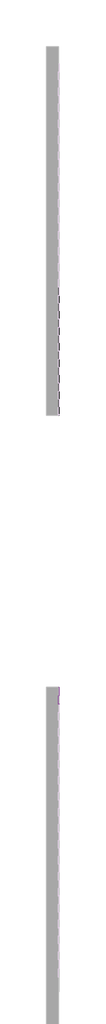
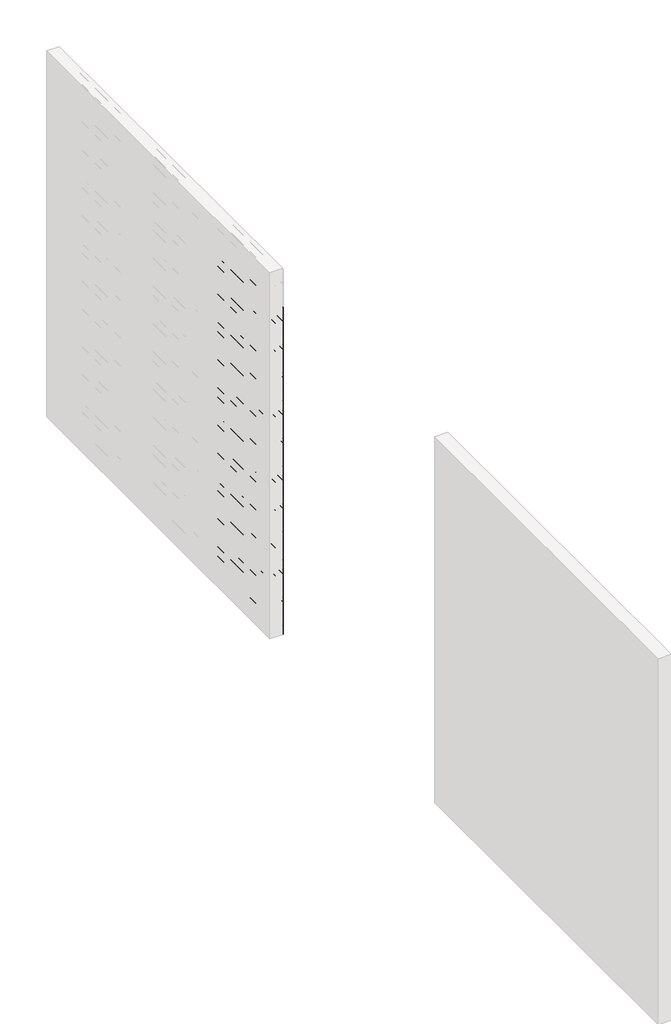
# One storey, part 12 of 45: 147 proxies.
"""IFC4 building model written with IfcOpenShell, lengths in millimetres."""

from ifc_helpers import new_model, si_unit, origin, place, context, project, spatial, transform, mapped, element, save
from components import generic_models_c1e678a0, generic_models_1527efce

model = new_model("IFC4")

# Units and contexts
model_context = context("Model", 3, world=origin())
ifc_project = project(units=[si_unit("LENGTHUNIT", "METRE", prefix="MILLI")], contexts=[model_context])

# Site, building, storey
site = spatial("IfcSite", under=ifc_project)
building = spatial("IfcBuilding", under=site)
storey = spatial("IfcBuildingStorey", under=building, Name="PORTOBELLO - SHOWROOM", Elevation=0.0)

# Proxies
placement = place(None, origin())
generic_models_shape = generic_models_c1e678a0(model_context)
element("IfcBuildingElementProxy", 1, Name="PBSHOP - HORIZONTES TULUM 6,5X23 : TULUM FENDA", ObjectType="PBSHOP - HORIZONTES TULUM 6,5X23 : TULUM FENDA", at=placement, inside=storey, context=model_context, shape_type="MappedRepresentation", body=[
    mapped(generic_models_shape, transform((63939.1036979, 15186.0588567, 34.5), x_axis=(0.0, 0.0, 1.0), y_axis=(0.0, -1.0, 0.0), z_axis=(1.0, 0.0, 0.0))),
])
element("IfcBuildingElementProxy", 2, Name="PBSHOP - HORIZONTES TULUM 6,5X23 : TULUM FENDA", ObjectType="PBSHOP - HORIZONTES TULUM 6,5X23 : TULUM FENDA", at=placement, inside=storey, context=model_context, shape_type="MappedRepresentation", body=[
    mapped(generic_models_shape, transform((63939.1036979, 15420.0588567, 34.5), x_axis=(0.0, 0.0, 1.0), y_axis=(0.0, -1.0, 0.0), z_axis=(1.0, 0.0, 0.0))),
])
element("IfcBuildingElementProxy", 3, Name="PBSHOP - HORIZONTES TULUM 6,5X23 : TULUM FENDA", ObjectType="PBSHOP - HORIZONTES TULUM 6,5X23 : TULUM FENDA", at=placement, inside=storey, context=model_context, shape_type="MappedRepresentation", body=[
    mapped(generic_models_shape, transform((63939.1036979, 15654.0588567, 34.5), x_axis=(0.0, 0.0, 1.0), y_axis=(0.0, -1.0, 0.0), z_axis=(1.0, 0.0, 0.0))),
])
element("IfcBuildingElementProxy", 4, Name="PBSHOP - HORIZONTES TULUM 6,5X23 : TULUM FENDA", ObjectType="PBSHOP - HORIZONTES TULUM 6,5X23 : TULUM FENDA", at=placement, inside=storey, context=model_context, shape_type="MappedRepresentation", body=[
    mapped(generic_models_shape, transform((63939.1036979, 15888.0588567, 34.5), x_axis=(0.0, 0.0, 1.0), y_axis=(0.0, -1.0, 0.0), z_axis=(1.0, 0.0, 0.0))),
])
element("IfcBuildingElementProxy", 5, Name="PBSHOP - HORIZONTES TULUM 6,5X23 : TULUM FENDA", ObjectType="PBSHOP - HORIZONTES TULUM 6,5X23 : TULUM FENDA", at=placement, inside=storey, context=model_context, shape_type="MappedRepresentation", body=[
    mapped(generic_models_shape, transform((63939.1036979, 15186.0588567, 103.5), x_axis=(0.0, 0.0, 1.0), y_axis=(0.0, -1.0, 0.0), z_axis=(1.0, 0.0, 0.0))),
])
element("IfcBuildingElementProxy", 6, Name="PBSHOP - HORIZONTES TULUM 6,5X23 : TULUM FENDA", ObjectType="PBSHOP - HORIZONTES TULUM 6,5X23 : TULUM FENDA", at=placement, inside=storey, context=model_context, shape_type="MappedRepresentation", body=[
    mapped(generic_models_shape, transform((63939.1036979, 15420.0588567, 103.5), x_axis=(0.0, 0.0, 1.0), y_axis=(0.0, -1.0, 0.0), z_axis=(1.0, 0.0, 0.0))),
])
element("IfcBuildingElementProxy", 7, Name="PBSHOP - HORIZONTES TULUM 6,5X23 : TULUM FENDA", ObjectType="PBSHOP - HORIZONTES TULUM 6,5X23 : TULUM FENDA", at=placement, inside=storey, context=model_context, shape_type="MappedRepresentation", body=[
    mapped(generic_models_shape, transform((63939.1036979, 15654.0588567, 103.5), x_axis=(0.0, 0.0, 1.0), y_axis=(0.0, -1.0, 0.0), z_axis=(1.0, 0.0, 0.0))),
])
element("IfcBuildingElementProxy", 8, Name="PBSHOP - HORIZONTES TULUM 6,5X23 : TULUM FENDA", ObjectType="PBSHOP - HORIZONTES TULUM 6,5X23 : TULUM FENDA", at=placement, inside=storey, context=model_context, shape_type="MappedRepresentation", body=[
    mapped(generic_models_shape, transform((63939.1036979, 15888.0588567, 103.5), x_axis=(0.0, 0.0, 1.0), y_axis=(0.0, -1.0, 0.0), z_axis=(1.0, 0.0, 0.0))),
])
element("IfcBuildingElementProxy", 9, Name="PBSHOP - HORIZONTES TULUM 6,5X23 : TULUM FENDA", ObjectType="PBSHOP - HORIZONTES TULUM 6,5X23 : TULUM FENDA", at=placement, inside=storey, context=model_context, shape_type="MappedRepresentation", body=[
    mapped(generic_models_shape, transform((63939.1036979, 15186.0588567, 172.5), x_axis=(0.0, 0.0, 1.0), y_axis=(0.0, -1.0, 0.0), z_axis=(1.0, 0.0, 0.0))),
])
element("IfcBuildingElementProxy", 10, Name="PBSHOP - HORIZONTES TULUM 6,5X23 : TULUM FENDA", ObjectType="PBSHOP - HORIZONTES TULUM 6,5X23 : TULUM FENDA", at=placement, inside=storey, context=model_context, shape_type="MappedRepresentation", body=[
    mapped(generic_models_shape, transform((63939.1036979, 15420.0588567, 172.5), x_axis=(0.0, 0.0, 1.0), y_axis=(0.0, -1.0, 0.0), z_axis=(1.0, 0.0, 0.0))),
])
element("IfcBuildingElementProxy", 11, Name="PBSHOP - HORIZONTES TULUM 6,5X23 : TULUM FENDA", ObjectType="PBSHOP - HORIZONTES TULUM 6,5X23 : TULUM FENDA", at=placement, inside=storey, context=model_context, shape_type="MappedRepresentation", body=[
    mapped(generic_models_shape, transform((63939.1036979, 15654.0588567, 172.5), x_axis=(0.0, 0.0, 1.0), y_axis=(0.0, -1.0, 0.0), z_axis=(1.0, 0.0, 0.0))),
])
element("IfcBuildingElementProxy", 12, Name="PBSHOP - HORIZONTES TULUM 6,5X23 : TULUM FENDA", ObjectType="PBSHOP - HORIZONTES TULUM 6,5X23 : TULUM FENDA", at=placement, inside=storey, context=model_context, shape_type="MappedRepresentation", body=[
    mapped(generic_models_shape, transform((63939.1036979, 15888.0588567, 172.5), x_axis=(0.0, 0.0, 1.0), y_axis=(0.0, -1.0, 0.0), z_axis=(1.0, 0.0, 0.0))),
])
element("IfcBuildingElementProxy", 13, Name="PBSHOP - HORIZONTES TULUM 6,5X23 : TULUM FENDA", ObjectType="PBSHOP - HORIZONTES TULUM 6,5X23 : TULUM FENDA", at=placement, inside=storey, context=model_context, shape_type="MappedRepresentation", body=[
    mapped(generic_models_shape, transform((63939.1036979, 15186.0588567, 241.5), x_axis=(0.0, 0.0, 1.0), y_axis=(0.0, -1.0, 0.0), z_axis=(1.0, 0.0, 0.0))),
])
element("IfcBuildingElementProxy", 14, Name="PBSHOP - HORIZONTES TULUM 6,5X23 : TULUM FENDA", ObjectType="PBSHOP - HORIZONTES TULUM 6,5X23 : TULUM FENDA", at=placement, inside=storey, context=model_context, shape_type="MappedRepresentation", body=[
    mapped(generic_models_shape, transform((63939.1036979, 15420.0588567, 241.5), x_axis=(0.0, 0.0, 1.0), y_axis=(0.0, -1.0, 0.0), z_axis=(1.0, 0.0, 0.0))),
])
element("IfcBuildingElementProxy", 15, Name="PBSHOP - HORIZONTES TULUM 6,5X23 : TULUM FENDA", ObjectType="PBSHOP - HORIZONTES TULUM 6,5X23 : TULUM FENDA", at=placement, inside=storey, context=model_context, shape_type="MappedRepresentation", body=[
    mapped(generic_models_shape, transform((63939.1036979, 15654.0588567, 241.5), x_axis=(0.0, 0.0, 1.0), y_axis=(0.0, -1.0, 0.0), z_axis=(1.0, 0.0, 0.0))),
])
element("IfcBuildingElementProxy", 16, Name="PBSHOP - HORIZONTES TULUM 6,5X23 : TULUM FENDA", ObjectType="PBSHOP - HORIZONTES TULUM 6,5X23 : TULUM FENDA", at=placement, inside=storey, context=model_context, shape_type="MappedRepresentation", body=[
    mapped(generic_models_shape, transform((63939.1036979, 15888.0588567, 241.5), x_axis=(0.0, 0.0, 1.0), y_axis=(0.0, -1.0, 0.0), z_axis=(1.0, 0.0, 0.0))),
])
element("IfcBuildingElementProxy", 17, Name="PBSHOP - HORIZONTES TULUM 6,5X23 : TULUM FENDA", ObjectType="PBSHOP - HORIZONTES TULUM 6,5X23 : TULUM FENDA", at=placement, inside=storey, context=model_context, shape_type="MappedRepresentation", body=[
    mapped(generic_models_shape, transform((63939.1036979, 15186.0588567, 310.5), x_axis=(0.0, 0.0, 1.0), y_axis=(0.0, -1.0, 0.0), z_axis=(1.0, 0.0, 0.0))),
])
element("IfcBuildingElementProxy", 18, Name="PBSHOP - HORIZONTES TULUM 6,5X23 : TULUM FENDA", ObjectType="PBSHOP - HORIZONTES TULUM 6,5X23 : TULUM FENDA", at=placement, inside=storey, context=model_context, shape_type="MappedRepresentation", body=[
    mapped(generic_models_shape, transform((63939.1036979, 15420.0588567, 310.5), x_axis=(0.0, 0.0, 1.0), y_axis=(0.0, -1.0, 0.0), z_axis=(1.0, 0.0, 0.0))),
])
element("IfcBuildingElementProxy", 19, Name="PBSHOP - HORIZONTES TULUM 6,5X23 : TULUM FENDA", ObjectType="PBSHOP - HORIZONTES TULUM 6,5X23 : TULUM FENDA", at=placement, inside=storey, context=model_context, shape_type="MappedRepresentation", body=[
    mapped(generic_models_shape, transform((63939.1036979, 15654.0588567, 310.5), x_axis=(0.0, 0.0, 1.0), y_axis=(0.0, -1.0, 0.0), z_axis=(1.0, 0.0, 0.0))),
])
element("IfcBuildingElementProxy", 20, Name="PBSHOP - HORIZONTES TULUM 6,5X23 : TULUM FENDA", ObjectType="PBSHOP - HORIZONTES TULUM 6,5X23 : TULUM FENDA", at=placement, inside=storey, context=model_context, shape_type="MappedRepresentation", body=[
    mapped(generic_models_shape, transform((63939.1036979, 15888.0588567, 310.5), x_axis=(0.0, 0.0, 1.0), y_axis=(0.0, -1.0, 0.0), z_axis=(1.0, 0.0, 0.0))),
])
element("IfcBuildingElementProxy", 21, Name="PBSHOP - HORIZONTES TULUM 6,5X23 : TULUM FENDA", ObjectType="PBSHOP - HORIZONTES TULUM 6,5X23 : TULUM FENDA", at=placement, inside=storey, context=model_context, shape_type="MappedRepresentation", body=[
    mapped(generic_models_shape, transform((63939.1036979, 15186.0588567, 379.5), x_axis=(0.0, 0.0, 1.0), y_axis=(0.0, -1.0, 0.0), z_axis=(1.0, 0.0, 0.0))),
])
element("IfcBuildingElementProxy", 22, Name="PBSHOP - HORIZONTES TULUM 6,5X23 : TULUM FENDA", ObjectType="PBSHOP - HORIZONTES TULUM 6,5X23 : TULUM FENDA", at=placement, inside=storey, context=model_context, shape_type="MappedRepresentation", body=[
    mapped(generic_models_shape, transform((63939.1036979, 15420.0588567, 379.5), x_axis=(0.0, 0.0, 1.0), y_axis=(0.0, -1.0, 0.0), z_axis=(1.0, 0.0, 0.0))),
])
element("IfcBuildingElementProxy", 23, Name="PBSHOP - HORIZONTES TULUM 6,5X23 : TULUM FENDA", ObjectType="PBSHOP - HORIZONTES TULUM 6,5X23 : TULUM FENDA", at=placement, inside=storey, context=model_context, shape_type="MappedRepresentation", body=[
    mapped(generic_models_shape, transform((63939.1036979, 15654.0588567, 379.5), x_axis=(0.0, 0.0, 1.0), y_axis=(0.0, -1.0, 0.0), z_axis=(1.0, 0.0, 0.0))),
])
element("IfcBuildingElementProxy", 24, Name="PBSHOP - HORIZONTES TULUM 6,5X23 : TULUM FENDA", ObjectType="PBSHOP - HORIZONTES TULUM 6,5X23 : TULUM FENDA", at=placement, inside=storey, context=model_context, shape_type="MappedRepresentation", body=[
    mapped(generic_models_shape, transform((63939.1036979, 15888.0588567, 379.5), x_axis=(0.0, 0.0, 1.0), y_axis=(0.0, -1.0, 0.0), z_axis=(1.0, 0.0, 0.0))),
])
element("IfcBuildingElementProxy", 25, Name="PBSHOP - HORIZONTES TULUM 6,5X23 : TULUM FENDA", ObjectType="PBSHOP - HORIZONTES TULUM 6,5X23 : TULUM FENDA", at=placement, inside=storey, context=model_context, shape_type="MappedRepresentation", body=[
    mapped(generic_models_shape, transform((63939.1036979, 15186.0588567, 448.5), x_axis=(0.0, 0.0, 1.0), y_axis=(0.0, -1.0, 0.0), z_axis=(1.0, 0.0, 0.0))),
])
element("IfcBuildingElementProxy", 26, Name="PBSHOP - HORIZONTES TULUM 6,5X23 : TULUM FENDA", ObjectType="PBSHOP - HORIZONTES TULUM 6,5X23 : TULUM FENDA", at=placement, inside=storey, context=model_context, shape_type="MappedRepresentation", body=[
    mapped(generic_models_shape, transform((63939.1036979, 15420.0588567, 448.5), x_axis=(0.0, 0.0, 1.0), y_axis=(0.0, -1.0, 0.0), z_axis=(1.0, 0.0, 0.0))),
])
element("IfcBuildingElementProxy", 27, Name="PBSHOP - HORIZONTES TULUM 6,5X23 : TULUM FENDA", ObjectType="PBSHOP - HORIZONTES TULUM 6,5X23 : TULUM FENDA", at=placement, inside=storey, context=model_context, shape_type="MappedRepresentation", body=[
    mapped(generic_models_shape, transform((63939.1036979, 15654.0588567, 448.5), x_axis=(0.0, 0.0, 1.0), y_axis=(0.0, -1.0, 0.0), z_axis=(1.0, 0.0, 0.0))),
])
element("IfcBuildingElementProxy", 28, Name="PBSHOP - HORIZONTES TULUM 6,5X23 : TULUM FENDA", ObjectType="PBSHOP - HORIZONTES TULUM 6,5X23 : TULUM FENDA", at=placement, inside=storey, context=model_context, shape_type="MappedRepresentation", body=[
    mapped(generic_models_shape, transform((63939.1036979, 15888.0588567, 448.5), x_axis=(0.0, 0.0, 1.0), y_axis=(0.0, -1.0, 0.0), z_axis=(1.0, 0.0, 0.0))),
])
element("IfcBuildingElementProxy", 29, Name="PBSHOP - HORIZONTES TULUM 6,5X23 : TULUM FENDA", ObjectType="PBSHOP - HORIZONTES TULUM 6,5X23 : TULUM FENDA", at=placement, inside=storey, context=model_context, shape_type="MappedRepresentation", body=[
    mapped(generic_models_shape, transform((63939.1036979, 15186.0588567, 517.5), x_axis=(0.0, 0.0, 1.0), y_axis=(0.0, -1.0, 0.0), z_axis=(1.0, 0.0, 0.0))),
])
element("IfcBuildingElementProxy", 30, Name="PBSHOP - HORIZONTES TULUM 6,5X23 : TULUM FENDA", ObjectType="PBSHOP - HORIZONTES TULUM 6,5X23 : TULUM FENDA", at=placement, inside=storey, context=model_context, shape_type="MappedRepresentation", body=[
    mapped(generic_models_shape, transform((63939.1036979, 15420.0588567, 517.5), x_axis=(0.0, 0.0, 1.0), y_axis=(0.0, -1.0, 0.0), z_axis=(1.0, 0.0, 0.0))),
])
element("IfcBuildingElementProxy", 31, Name="PBSHOP - HORIZONTES TULUM 6,5X23 : TULUM FENDA", ObjectType="PBSHOP - HORIZONTES TULUM 6,5X23 : TULUM FENDA", at=placement, inside=storey, context=model_context, shape_type="MappedRepresentation", body=[
    mapped(generic_models_shape, transform((63939.1036979, 15654.0588567, 517.5), x_axis=(0.0, 0.0, 1.0), y_axis=(0.0, -1.0, 0.0), z_axis=(1.0, 0.0, 0.0))),
])
element("IfcBuildingElementProxy", 32, Name="PBSHOP - HORIZONTES TULUM 6,5X23 : TULUM FENDA", ObjectType="PBSHOP - HORIZONTES TULUM 6,5X23 : TULUM FENDA", at=placement, inside=storey, context=model_context, shape_type="MappedRepresentation", body=[
    mapped(generic_models_shape, transform((63939.1036979, 15888.0588567, 517.5), x_axis=(0.0, 0.0, 1.0), y_axis=(0.0, -1.0, 0.0), z_axis=(1.0, 0.0, 0.0))),
])
element("IfcBuildingElementProxy", 33, Name="PBSHOP - HORIZONTES TULUM 6,5X23 : TULUM FENDA", ObjectType="PBSHOP - HORIZONTES TULUM 6,5X23 : TULUM FENDA", at=placement, inside=storey, context=model_context, shape_type="MappedRepresentation", body=[
    mapped(generic_models_shape, transform((63939.1036979, 15186.0588567, 586.5), x_axis=(0.0, 0.0, 1.0), y_axis=(0.0, -1.0, 0.0), z_axis=(1.0, 0.0, 0.0))),
])
element("IfcBuildingElementProxy", 34, Name="PBSHOP - HORIZONTES TULUM 6,5X23 : TULUM FENDA", ObjectType="PBSHOP - HORIZONTES TULUM 6,5X23 : TULUM FENDA", at=placement, inside=storey, context=model_context, shape_type="MappedRepresentation", body=[
    mapped(generic_models_shape, transform((63939.1036979, 15420.0588567, 586.5), x_axis=(0.0, 0.0, 1.0), y_axis=(0.0, -1.0, 0.0), z_axis=(1.0, 0.0, 0.0))),
])
element("IfcBuildingElementProxy", 35, Name="PBSHOP - HORIZONTES TULUM 6,5X23 : TULUM FENDA", ObjectType="PBSHOP - HORIZONTES TULUM 6,5X23 : TULUM FENDA", at=placement, inside=storey, context=model_context, shape_type="MappedRepresentation", body=[
    mapped(generic_models_shape, transform((63939.1036979, 15654.0588567, 586.5), x_axis=(0.0, 0.0, 1.0), y_axis=(0.0, -1.0, 0.0), z_axis=(1.0, 0.0, 0.0))),
])
element("IfcBuildingElementProxy", 36, Name="PBSHOP - HORIZONTES TULUM 6,5X23 : TULUM FENDA", ObjectType="PBSHOP - HORIZONTES TULUM 6,5X23 : TULUM FENDA", at=placement, inside=storey, context=model_context, shape_type="MappedRepresentation", body=[
    mapped(generic_models_shape, transform((63939.1036979, 15888.0588567, 586.5), x_axis=(0.0, 0.0, 1.0), y_axis=(0.0, -1.0, 0.0), z_axis=(1.0, 0.0, 0.0))),
])
element("IfcBuildingElementProxy", 37, Name="PBSHOP - HORIZONTES TULUM 6,5X23 : TULUM FENDA", ObjectType="PBSHOP - HORIZONTES TULUM 6,5X23 : TULUM FENDA", at=placement, inside=storey, context=model_context, shape_type="MappedRepresentation", body=[
    mapped(generic_models_shape, transform((63939.1036979, 15186.0588567, 655.5), x_axis=(0.0, 0.0, 1.0), y_axis=(0.0, -1.0, 0.0), z_axis=(1.0, 0.0, 0.0))),
])
element("IfcBuildingElementProxy", 38, Name="PBSHOP - HORIZONTES TULUM 6,5X23 : TULUM FENDA", ObjectType="PBSHOP - HORIZONTES TULUM 6,5X23 : TULUM FENDA", at=placement, inside=storey, context=model_context, shape_type="MappedRepresentation", body=[
    mapped(generic_models_shape, transform((63939.1036979, 15420.0588567, 655.5), x_axis=(0.0, 0.0, 1.0), y_axis=(0.0, -1.0, 0.0), z_axis=(1.0, 0.0, 0.0))),
])
element("IfcBuildingElementProxy", 39, Name="PBSHOP - HORIZONTES TULUM 6,5X23 : TULUM FENDA", ObjectType="PBSHOP - HORIZONTES TULUM 6,5X23 : TULUM FENDA", at=placement, inside=storey, context=model_context, shape_type="MappedRepresentation", body=[
    mapped(generic_models_shape, transform((63939.1036979, 15654.0588567, 655.5), x_axis=(0.0, 0.0, 1.0), y_axis=(0.0, -1.0, 0.0), z_axis=(1.0, 0.0, 0.0))),
])
element("IfcBuildingElementProxy", 40, Name="PBSHOP - HORIZONTES TULUM 6,5X23 : TULUM FENDA", ObjectType="PBSHOP - HORIZONTES TULUM 6,5X23 : TULUM FENDA", at=placement, inside=storey, context=model_context, shape_type="MappedRepresentation", body=[
    mapped(generic_models_shape, transform((63939.1036979, 15888.0588567, 655.5), x_axis=(0.0, 0.0, 1.0), y_axis=(0.0, -1.0, 0.0), z_axis=(1.0, 0.0, 0.0))),
])
element("IfcBuildingElementProxy", 41, Name="PBSHOP - HORIZONTES TULUM 6,5X23 : TULUM FENDA", ObjectType="PBSHOP - HORIZONTES TULUM 6,5X23 : TULUM FENDA", at=placement, inside=storey, context=model_context, shape_type="MappedRepresentation", body=[
    mapped(generic_models_shape, transform((63939.1036979, 15186.0588567, 724.5), x_axis=(0.0, 0.0, 1.0), y_axis=(0.0, -1.0, 0.0), z_axis=(1.0, 0.0, 0.0))),
])
element("IfcBuildingElementProxy", 42, Name="PBSHOP - HORIZONTES TULUM 6,5X23 : TULUM FENDA", ObjectType="PBSHOP - HORIZONTES TULUM 6,5X23 : TULUM FENDA", at=placement, inside=storey, context=model_context, shape_type="MappedRepresentation", body=[
    mapped(generic_models_shape, transform((63939.1036979, 15420.0588567, 724.5), x_axis=(0.0, 0.0, 1.0), y_axis=(0.0, -1.0, 0.0), z_axis=(1.0, 0.0, 0.0))),
])
element("IfcBuildingElementProxy", 43, Name="PBSHOP - HORIZONTES TULUM 6,5X23 : TULUM FENDA", ObjectType="PBSHOP - HORIZONTES TULUM 6,5X23 : TULUM FENDA", at=placement, inside=storey, context=model_context, shape_type="MappedRepresentation", body=[
    mapped(generic_models_shape, transform((63939.1036979, 15654.0588567, 724.5), x_axis=(0.0, 0.0, 1.0), y_axis=(0.0, -1.0, 0.0), z_axis=(1.0, 0.0, 0.0))),
])
element("IfcBuildingElementProxy", 44, Name="PBSHOP - HORIZONTES TULUM 6,5X23 : TULUM FENDA", ObjectType="PBSHOP - HORIZONTES TULUM 6,5X23 : TULUM FENDA", at=placement, inside=storey, context=model_context, shape_type="MappedRepresentation", body=[
    mapped(generic_models_shape, transform((63939.1036979, 15888.0588567, 724.5), x_axis=(0.0, 0.0, 1.0), y_axis=(0.0, -1.0, 0.0), z_axis=(1.0, 0.0, 0.0))),
])
element("IfcBuildingElementProxy", 45, Name="PBSHOP - HORIZONTES TULUM 6,5X23 : TULUM FENDA", ObjectType="PBSHOP - HORIZONTES TULUM 6,5X23 : TULUM FENDA", at=placement, inside=storey, context=model_context, shape_type="MappedRepresentation", body=[
    mapped(generic_models_shape, transform((63939.1036979, 15186.0588567, 793.5), x_axis=(0.0, 0.0, 1.0), y_axis=(0.0, -1.0, 0.0), z_axis=(1.0, 0.0, 0.0))),
])
element("IfcBuildingElementProxy", 46, Name="PBSHOP - HORIZONTES TULUM 6,5X23 : TULUM FENDA", ObjectType="PBSHOP - HORIZONTES TULUM 6,5X23 : TULUM FENDA", at=placement, inside=storey, context=model_context, shape_type="MappedRepresentation", body=[
    mapped(generic_models_shape, transform((63939.1036979, 15420.0588567, 793.5), x_axis=(0.0, 0.0, 1.0), y_axis=(0.0, -1.0, 0.0), z_axis=(1.0, 0.0, 0.0))),
])
element("IfcBuildingElementProxy", 47, Name="PBSHOP - HORIZONTES TULUM 6,5X23 : TULUM FENDA", ObjectType="PBSHOP - HORIZONTES TULUM 6,5X23 : TULUM FENDA", at=placement, inside=storey, context=model_context, shape_type="MappedRepresentation", body=[
    mapped(generic_models_shape, transform((63939.1036979, 15654.0588567, 793.5), x_axis=(0.0, 0.0, 1.0), y_axis=(0.0, -1.0, 0.0), z_axis=(1.0, 0.0, 0.0))),
])
element("IfcBuildingElementProxy", 48, Name="PBSHOP - HORIZONTES TULUM 6,5X23 : TULUM FENDA", ObjectType="PBSHOP - HORIZONTES TULUM 6,5X23 : TULUM FENDA", at=placement, inside=storey, context=model_context, shape_type="MappedRepresentation", body=[
    mapped(generic_models_shape, transform((63939.1036979, 15888.0588567, 793.5), x_axis=(0.0, 0.0, 1.0), y_axis=(0.0, -1.0, 0.0), z_axis=(1.0, 0.0, 0.0))),
])
element("IfcBuildingElementProxy", 49, Name="PBSHOP - HORIZONTES TULUM 6,5X23 : TULUM FENDA", ObjectType="PBSHOP - HORIZONTES TULUM 6,5X23 : TULUM FENDA", at=placement, inside=storey, context=model_context, shape_type="MappedRepresentation", body=[
    mapped(generic_models_shape, transform((63939.1036979, 15186.0588567, 862.5), x_axis=(0.0, 0.0, 1.0), y_axis=(0.0, -1.0, 0.0), z_axis=(1.0, 0.0, 0.0))),
])
element("IfcBuildingElementProxy", 50, Name="PBSHOP - HORIZONTES TULUM 6,5X23 : TULUM FENDA", ObjectType="PBSHOP - HORIZONTES TULUM 6,5X23 : TULUM FENDA", at=placement, inside=storey, context=model_context, shape_type="MappedRepresentation", body=[
    mapped(generic_models_shape, transform((63939.1036979, 15420.0588567, 862.5), x_axis=(0.0, 0.0, 1.0), y_axis=(0.0, -1.0, 0.0), z_axis=(1.0, 0.0, 0.0))),
])
element("IfcBuildingElementProxy", 51, Name="PBSHOP - HORIZONTES TULUM 6,5X23 : TULUM FENDA", ObjectType="PBSHOP - HORIZONTES TULUM 6,5X23 : TULUM FENDA", at=placement, inside=storey, context=model_context, shape_type="MappedRepresentation", body=[
    mapped(generic_models_shape, transform((63939.1036979, 15654.0588567, 862.5), x_axis=(0.0, 0.0, 1.0), y_axis=(0.0, -1.0, 0.0), z_axis=(1.0, 0.0, 0.0))),
])
element("IfcBuildingElementProxy", 52, Name="PBSHOP - HORIZONTES TULUM 6,5X23 : TULUM FENDA", ObjectType="PBSHOP - HORIZONTES TULUM 6,5X23 : TULUM FENDA", at=placement, inside=storey, context=model_context, shape_type="MappedRepresentation", body=[
    mapped(generic_models_shape, transform((63939.1036979, 15888.0588567, 862.5), x_axis=(0.0, 0.0, 1.0), y_axis=(0.0, -1.0, 0.0), z_axis=(1.0, 0.0, 0.0))),
])
element("IfcBuildingElementProxy", 53, Name="PBSHOP - HORIZONTES TULUM 6,5X23 : TULUM FENDA", ObjectType="PBSHOP - HORIZONTES TULUM 6,5X23 : TULUM FENDA", at=placement, inside=storey, context=model_context, shape_type="MappedRepresentation", body=[
    mapped(generic_models_shape, transform((63939.1036979, 15186.0588567, 931.5), x_axis=(0.0, 0.0, 1.0), y_axis=(0.0, -1.0, 0.0), z_axis=(1.0, 0.0, 0.0))),
])
element("IfcBuildingElementProxy", 54, Name="PBSHOP - HORIZONTES TULUM 6,5X23 : TULUM FENDA", ObjectType="PBSHOP - HORIZONTES TULUM 6,5X23 : TULUM FENDA", at=placement, inside=storey, context=model_context, shape_type="MappedRepresentation", body=[
    mapped(generic_models_shape, transform((63939.1036979, 15420.0588567, 931.5), x_axis=(0.0, 0.0, 1.0), y_axis=(0.0, -1.0, 0.0), z_axis=(1.0, 0.0, 0.0))),
])
element("IfcBuildingElementProxy", 55, Name="PBSHOP - HORIZONTES TULUM 6,5X23 : TULUM FENDA", ObjectType="PBSHOP - HORIZONTES TULUM 6,5X23 : TULUM FENDA", at=placement, inside=storey, context=model_context, shape_type="MappedRepresentation", body=[
    mapped(generic_models_shape, transform((63939.1036979, 15654.0588567, 931.5), x_axis=(0.0, 0.0, 1.0), y_axis=(0.0, -1.0, 0.0), z_axis=(1.0, 0.0, 0.0))),
])
element("IfcBuildingElementProxy", 56, Name="PBSHOP - HORIZONTES TULUM 6,5X23 : TULUM FENDA", ObjectType="PBSHOP - HORIZONTES TULUM 6,5X23 : TULUM FENDA", at=placement, inside=storey, context=model_context, shape_type="MappedRepresentation", body=[
    mapped(generic_models_shape, transform((63939.1036979, 15888.0588567, 931.5), x_axis=(0.0, 0.0, 1.0), y_axis=(0.0, -1.0, 0.0), z_axis=(1.0, 0.0, 0.0))),
])
element("IfcBuildingElementProxy", 57, Name="PBSHOP - HORIZONTES TULUM 6,5X23 : TULUM FENDA", ObjectType="PBSHOP - HORIZONTES TULUM 6,5X23 : TULUM FENDA", at=placement, inside=storey, context=model_context, shape_type="MappedRepresentation", body=[
    mapped(generic_models_shape, transform((63939.1036979, 15186.0588567, 1000.5), x_axis=(0.0, 0.0, 1.0), y_axis=(0.0, -1.0, 0.0), z_axis=(1.0, 0.0, 0.0))),
])
element("IfcBuildingElementProxy", 58, Name="PBSHOP - HORIZONTES TULUM 6,5X23 : TULUM FENDA", ObjectType="PBSHOP - HORIZONTES TULUM 6,5X23 : TULUM FENDA", at=placement, inside=storey, context=model_context, shape_type="MappedRepresentation", body=[
    mapped(generic_models_shape, transform((63939.1036979, 15420.0588567, 1000.5), x_axis=(0.0, 0.0, 1.0), y_axis=(0.0, -1.0, 0.0), z_axis=(1.0, 0.0, 0.0))),
])
element("IfcBuildingElementProxy", 59, Name="PBSHOP - HORIZONTES TULUM 6,5X23 : TULUM FENDA", ObjectType="PBSHOP - HORIZONTES TULUM 6,5X23 : TULUM FENDA", at=placement, inside=storey, context=model_context, shape_type="MappedRepresentation", body=[
    mapped(generic_models_shape, transform((63939.1036979, 15654.0588567, 1000.5), x_axis=(0.0, 0.0, 1.0), y_axis=(0.0, -1.0, 0.0), z_axis=(1.0, 0.0, 0.0))),
])
element("IfcBuildingElementProxy", 60, Name="PBSHOP - HORIZONTES TULUM 6,5X23 : TULUM FENDA", ObjectType="PBSHOP - HORIZONTES TULUM 6,5X23 : TULUM FENDA", at=placement, inside=storey, context=model_context, shape_type="MappedRepresentation", body=[
    mapped(generic_models_shape, transform((63939.1036979, 15888.0588567, 1000.5), x_axis=(0.0, 0.0, 1.0), y_axis=(0.0, -1.0, 0.0), z_axis=(1.0, 0.0, 0.0))),
])
element("IfcBuildingElementProxy", 61, Name="PBSHOP - HORIZONTES TULUM 6,5X23 : TULUM FENDA", ObjectType="PBSHOP - HORIZONTES TULUM 6,5X23 : TULUM FENDA", at=placement, inside=storey, context=model_context, shape_type="MappedRepresentation", body=[
    mapped(generic_models_shape, transform((63939.1036979, 15186.0588567, 1069.5), x_axis=(0.0, 0.0, 1.0), y_axis=(0.0, -1.0, 0.0), z_axis=(1.0, 0.0, 0.0))),
])
element("IfcBuildingElementProxy", 62, Name="PBSHOP - HORIZONTES TULUM 6,5X23 : TULUM FENDA", ObjectType="PBSHOP - HORIZONTES TULUM 6,5X23 : TULUM FENDA", at=placement, inside=storey, context=model_context, shape_type="MappedRepresentation", body=[
    mapped(generic_models_shape, transform((63939.1036979, 15420.0588567, 1069.5), x_axis=(0.0, 0.0, 1.0), y_axis=(0.0, -1.0, 0.0), z_axis=(1.0, 0.0, 0.0))),
])
element("IfcBuildingElementProxy", 63, Name="PBSHOP - HORIZONTES TULUM 6,5X23 : TULUM FENDA", ObjectType="PBSHOP - HORIZONTES TULUM 6,5X23 : TULUM FENDA", at=placement, inside=storey, context=model_context, shape_type="MappedRepresentation", body=[
    mapped(generic_models_shape, transform((63939.1036979, 15654.0588567, 1069.5), x_axis=(0.0, 0.0, 1.0), y_axis=(0.0, -1.0, 0.0), z_axis=(1.0, 0.0, 0.0))),
])
element("IfcBuildingElementProxy", 64, Name="PBSHOP - HORIZONTES TULUM 6,5X23 : TULUM FENDA", ObjectType="PBSHOP - HORIZONTES TULUM 6,5X23 : TULUM FENDA", at=placement, inside=storey, context=model_context, shape_type="MappedRepresentation", body=[
    mapped(generic_models_shape, transform((63939.1036979, 15888.0588567, 1069.5), x_axis=(0.0, 0.0, 1.0), y_axis=(0.0, -1.0, 0.0), z_axis=(1.0, 0.0, 0.0))),
])
element("IfcBuildingElementProxy", 65, Name="PBSHOP - HORIZONTES TULUM 6,5X23 : TULUM FENDA", ObjectType="PBSHOP - HORIZONTES TULUM 6,5X23 : TULUM FENDA", at=placement, inside=storey, context=model_context, shape_type="MappedRepresentation", body=[
    mapped(generic_models_shape, transform((63939.1036979, 15186.0588567, 1138.5), x_axis=(0.0, 0.0, 1.0), y_axis=(0.0, -1.0, 0.0), z_axis=(1.0, 0.0, 0.0))),
])
element("IfcBuildingElementProxy", 66, Name="PBSHOP - HORIZONTES TULUM 6,5X23 : TULUM FENDA", ObjectType="PBSHOP - HORIZONTES TULUM 6,5X23 : TULUM FENDA", at=placement, inside=storey, context=model_context, shape_type="MappedRepresentation", body=[
    mapped(generic_models_shape, transform((63939.1036979, 15420.0588567, 1138.5), x_axis=(0.0, 0.0, 1.0), y_axis=(0.0, -1.0, 0.0), z_axis=(1.0, 0.0, 0.0))),
])
element("IfcBuildingElementProxy", 67, Name="PBSHOP - HORIZONTES TULUM 6,5X23 : TULUM FENDA", ObjectType="PBSHOP - HORIZONTES TULUM 6,5X23 : TULUM FENDA", at=placement, inside=storey, context=model_context, shape_type="MappedRepresentation", body=[
    mapped(generic_models_shape, transform((63939.1036979, 15654.0588567, 1138.5), x_axis=(0.0, 0.0, 1.0), y_axis=(0.0, -1.0, 0.0), z_axis=(1.0, 0.0, 0.0))),
])
element("IfcBuildingElementProxy", 68, Name="PBSHOP - HORIZONTES TULUM 6,5X23 : TULUM FENDA", ObjectType="PBSHOP - HORIZONTES TULUM 6,5X23 : TULUM FENDA", at=placement, inside=storey, context=model_context, shape_type="MappedRepresentation", body=[
    mapped(generic_models_shape, transform((63939.1036979, 15888.0588567, 1138.5), x_axis=(0.0, 0.0, 1.0), y_axis=(0.0, -1.0, 0.0), z_axis=(1.0, 0.0, 0.0))),
])
element("IfcBuildingElementProxy", 69, Name="PBSHOP - HORIZONTES TULUM 6,5X23 : TULUM FENDA", ObjectType="PBSHOP - HORIZONTES TULUM 6,5X23 : TULUM FENDA", at=placement, inside=storey, context=model_context, shape_type="MappedRepresentation", body=[
    mapped(generic_models_shape, transform((63939.1036979, 15186.0588567, 1207.5), x_axis=(0.0, 0.0, 1.0), y_axis=(0.0, -1.0, 0.0), z_axis=(1.0, 0.0, 0.0))),
])
element("IfcBuildingElementProxy", 70, Name="PBSHOP - HORIZONTES TULUM 6,5X23 : TULUM FENDA", ObjectType="PBSHOP - HORIZONTES TULUM 6,5X23 : TULUM FENDA", at=placement, inside=storey, context=model_context, shape_type="MappedRepresentation", body=[
    mapped(generic_models_shape, transform((63939.1036979, 15420.0588567, 1207.5), x_axis=(0.0, 0.0, 1.0), y_axis=(0.0, -1.0, 0.0), z_axis=(1.0, 0.0, 0.0))),
])
element("IfcBuildingElementProxy", 71, Name="PBSHOP - HORIZONTES TULUM 6,5X23 : TULUM FENDA", ObjectType="PBSHOP - HORIZONTES TULUM 6,5X23 : TULUM FENDA", at=placement, inside=storey, context=model_context, shape_type="MappedRepresentation", body=[
    mapped(generic_models_shape, transform((63939.1036979, 15654.0588567, 1207.5), x_axis=(0.0, 0.0, 1.0), y_axis=(0.0, -1.0, 0.0), z_axis=(1.0, 0.0, 0.0))),
])
element("IfcBuildingElementProxy", 72, Name="PBSHOP - HORIZONTES TULUM 6,5X23 : TULUM FENDA", ObjectType="PBSHOP - HORIZONTES TULUM 6,5X23 : TULUM FENDA", at=placement, inside=storey, context=model_context, shape_type="MappedRepresentation", body=[
    mapped(generic_models_shape, transform((63939.1036979, 15888.0588567, 1207.5), x_axis=(0.0, 0.0, 1.0), y_axis=(0.0, -1.0, 0.0), z_axis=(1.0, 0.0, 0.0))),
])
element("IfcBuildingElementProxy", 73, Name="PBSHOP - HORIZONTES TULUM 6,5X23 : TULUM FENDA", ObjectType="PBSHOP - HORIZONTES TULUM 6,5X23 : TULUM FENDA", at=placement, inside=storey, context=model_context, shape_type="MappedRepresentation", body=[
    mapped(generic_models_shape, transform((63939.1036979, 15186.0588567, 1276.5), x_axis=(0.0, 0.0, 1.0), y_axis=(0.0, -1.0, 0.0), z_axis=(1.0, 0.0, 0.0))),
])
element("IfcBuildingElementProxy", 74, Name="PBSHOP - HORIZONTES TULUM 6,5X23 : TULUM FENDA", ObjectType="PBSHOP - HORIZONTES TULUM 6,5X23 : TULUM FENDA", at=placement, inside=storey, context=model_context, shape_type="MappedRepresentation", body=[
    mapped(generic_models_shape, transform((63939.1036979, 15420.0588567, 1276.5), x_axis=(0.0, 0.0, 1.0), y_axis=(0.0, -1.0, 0.0), z_axis=(1.0, 0.0, 0.0))),
])
element("IfcBuildingElementProxy", 75, Name="PBSHOP - HORIZONTES TULUM 6,5X23 : TULUM FENDA", ObjectType="PBSHOP - HORIZONTES TULUM 6,5X23 : TULUM FENDA", at=placement, inside=storey, context=model_context, shape_type="MappedRepresentation", body=[
    mapped(generic_models_shape, transform((63939.1036979, 15654.0588567, 1276.5), x_axis=(0.0, 0.0, 1.0), y_axis=(0.0, -1.0, 0.0), z_axis=(1.0, 0.0, 0.0))),
])
element("IfcBuildingElementProxy", 76, Name="PBSHOP - HORIZONTES TULUM 6,5X23 : TULUM FENDA", ObjectType="PBSHOP - HORIZONTES TULUM 6,5X23 : TULUM FENDA", at=placement, inside=storey, context=model_context, shape_type="MappedRepresentation", body=[
    mapped(generic_models_shape, transform((63939.1036979, 15888.0588567, 1276.5), x_axis=(0.0, 0.0, 1.0), y_axis=(0.0, -1.0, 0.0), z_axis=(1.0, 0.0, 0.0))),
])
element("IfcBuildingElementProxy", 77, Name="PBSHOP - HORIZONTES TULUM 6,5X23 : TULUM FENDA", ObjectType="PBSHOP - HORIZONTES TULUM 6,5X23 : TULUM FENDA", at=placement, inside=storey, context=model_context, shape_type="MappedRepresentation", body=[
    mapped(generic_models_shape, transform((63939.1036979, 15186.0588567, 1345.5), x_axis=(0.0, 0.0, 1.0), y_axis=(0.0, -1.0, 0.0), z_axis=(1.0, 0.0, 0.0))),
])
element("IfcBuildingElementProxy", 78, Name="PBSHOP - HORIZONTES TULUM 6,5X23 : TULUM FENDA", ObjectType="PBSHOP - HORIZONTES TULUM 6,5X23 : TULUM FENDA", at=placement, inside=storey, context=model_context, shape_type="MappedRepresentation", body=[
    mapped(generic_models_shape, transform((63939.1036979, 15420.0588567, 1345.5), x_axis=(0.0, 0.0, 1.0), y_axis=(0.0, -1.0, 0.0), z_axis=(1.0, 0.0, 0.0))),
])
element("IfcBuildingElementProxy", 79, Name="PBSHOP - HORIZONTES TULUM 6,5X23 : TULUM FENDA", ObjectType="PBSHOP - HORIZONTES TULUM 6,5X23 : TULUM FENDA", at=placement, inside=storey, context=model_context, shape_type="MappedRepresentation", body=[
    mapped(generic_models_shape, transform((63939.1036979, 15654.0588567, 1345.5), x_axis=(0.0, 0.0, 1.0), y_axis=(0.0, -1.0, 0.0), z_axis=(1.0, 0.0, 0.0))),
])
element("IfcBuildingElementProxy", 80, Name="PBSHOP - HORIZONTES TULUM 6,5X23 : TULUM FENDA", ObjectType="PBSHOP - HORIZONTES TULUM 6,5X23 : TULUM FENDA", at=placement, inside=storey, context=model_context, shape_type="MappedRepresentation", body=[
    mapped(generic_models_shape, transform((63939.1036979, 15888.0588567, 1345.5), x_axis=(0.0, 0.0, 1.0), y_axis=(0.0, -1.0, 0.0), z_axis=(1.0, 0.0, 0.0))),
])
element("IfcBuildingElementProxy", 81, Name="PBSHOP - HORIZONTES TULUM 6,5X23 : TULUM FENDA", ObjectType="PBSHOP - HORIZONTES TULUM 6,5X23 : TULUM FENDA", at=placement, inside=storey, context=model_context, shape_type="MappedRepresentation", body=[
    mapped(generic_models_shape, transform((63939.1036979, 15186.0588567, 1414.5), x_axis=(0.0, 0.0, 1.0), y_axis=(0.0, -1.0, 0.0), z_axis=(1.0, 0.0, 0.0))),
])
element("IfcBuildingElementProxy", 82, Name="PBSHOP - HORIZONTES TULUM 6,5X23 : TULUM FENDA", ObjectType="PBSHOP - HORIZONTES TULUM 6,5X23 : TULUM FENDA", at=placement, inside=storey, context=model_context, shape_type="MappedRepresentation", body=[
    mapped(generic_models_shape, transform((63939.1036979, 15420.0588567, 1414.5), x_axis=(0.0, 0.0, 1.0), y_axis=(0.0, -1.0, 0.0), z_axis=(1.0, 0.0, 0.0))),
])
element("IfcBuildingElementProxy", 83, Name="PBSHOP - HORIZONTES TULUM 6,5X23 : TULUM FENDA", ObjectType="PBSHOP - HORIZONTES TULUM 6,5X23 : TULUM FENDA", at=placement, inside=storey, context=model_context, shape_type="MappedRepresentation", body=[
    mapped(generic_models_shape, transform((63939.1036979, 15654.0588567, 1414.5), x_axis=(0.0, 0.0, 1.0), y_axis=(0.0, -1.0, 0.0), z_axis=(1.0, 0.0, 0.0))),
])
element("IfcBuildingElementProxy", 84, Name="PBSHOP - HORIZONTES TULUM 6,5X23 : TULUM FENDA", ObjectType="PBSHOP - HORIZONTES TULUM 6,5X23 : TULUM FENDA", at=placement, inside=storey, context=model_context, shape_type="MappedRepresentation", body=[
    mapped(generic_models_shape, transform((63939.1036979, 15888.0588567, 1414.5), x_axis=(0.0, 0.0, 1.0), y_axis=(0.0, -1.0, 0.0), z_axis=(1.0, 0.0, 0.0))),
])
element("IfcBuildingElementProxy", 85, Name="PBSHOP - HORIZONTES TULUM 6,5X23 : TULUM FENDA", ObjectType="PBSHOP - HORIZONTES TULUM 6,5X23 : TULUM FENDA", at=placement, inside=storey, context=model_context, shape_type="MappedRepresentation", body=[
    mapped(generic_models_shape, transform((63939.1036979, 15186.0588567, 1483.5), x_axis=(0.0, 0.0, 1.0), y_axis=(0.0, -1.0, 0.0), z_axis=(1.0, 0.0, 0.0))),
])
element("IfcBuildingElementProxy", 86, Name="PBSHOP - HORIZONTES TULUM 6,5X23 : TULUM FENDA", ObjectType="PBSHOP - HORIZONTES TULUM 6,5X23 : TULUM FENDA", at=placement, inside=storey, context=model_context, shape_type="MappedRepresentation", body=[
    mapped(generic_models_shape, transform((63939.1036979, 15420.0588567, 1483.5), x_axis=(0.0, 0.0, 1.0), y_axis=(0.0, -1.0, 0.0), z_axis=(1.0, 0.0, 0.0))),
])
element("IfcBuildingElementProxy", 87, Name="PBSHOP - HORIZONTES TULUM 6,5X23 : TULUM FENDA", ObjectType="PBSHOP - HORIZONTES TULUM 6,5X23 : TULUM FENDA", at=placement, inside=storey, context=model_context, shape_type="MappedRepresentation", body=[
    mapped(generic_models_shape, transform((63939.1036979, 15654.0588567, 1483.5), x_axis=(0.0, 0.0, 1.0), y_axis=(0.0, -1.0, 0.0), z_axis=(1.0, 0.0, 0.0))),
])
element("IfcBuildingElementProxy", 88, Name="PBSHOP - HORIZONTES TULUM 6,5X23 : TULUM FENDA", ObjectType="PBSHOP - HORIZONTES TULUM 6,5X23 : TULUM FENDA", at=placement, inside=storey, context=model_context, shape_type="MappedRepresentation", body=[
    mapped(generic_models_shape, transform((63939.1036979, 15888.0588567, 1483.5), x_axis=(0.0, 0.0, 1.0), y_axis=(0.0, -1.0, 0.0), z_axis=(1.0, 0.0, 0.0))),
])
element("IfcBuildingElementProxy", 89, Name="PBSHOP - HORIZONTES TULUM 6,5X23 : TULUM FENDA", ObjectType="PBSHOP - HORIZONTES TULUM 6,5X23 : TULUM FENDA", at=placement, inside=storey, context=model_context, shape_type="MappedRepresentation", body=[
    mapped(generic_models_shape, transform((63939.1036979, 15186.0588567, 1552.5), x_axis=(0.0, 0.0, 1.0), y_axis=(0.0, -1.0, 0.0), z_axis=(1.0, 0.0, 0.0))),
])
element("IfcBuildingElementProxy", 90, Name="PBSHOP - HORIZONTES TULUM 6,5X23 : TULUM FENDA", ObjectType="PBSHOP - HORIZONTES TULUM 6,5X23 : TULUM FENDA", at=placement, inside=storey, context=model_context, shape_type="MappedRepresentation", body=[
    mapped(generic_models_shape, transform((63939.1036979, 15420.0588567, 1552.5), x_axis=(0.0, 0.0, 1.0), y_axis=(0.0, -1.0, 0.0), z_axis=(1.0, 0.0, 0.0))),
])
element("IfcBuildingElementProxy", 91, Name="PBSHOP - HORIZONTES TULUM 6,5X23 : TULUM FENDA", ObjectType="PBSHOP - HORIZONTES TULUM 6,5X23 : TULUM FENDA", at=placement, inside=storey, context=model_context, shape_type="MappedRepresentation", body=[
    mapped(generic_models_shape, transform((63939.1036979, 15654.0588567, 1552.5), x_axis=(0.0, 0.0, 1.0), y_axis=(0.0, -1.0, 0.0), z_axis=(1.0, 0.0, 0.0))),
])
element("IfcBuildingElementProxy", 92, Name="PBSHOP - HORIZONTES TULUM 6,5X23 : TULUM FENDA", ObjectType="PBSHOP - HORIZONTES TULUM 6,5X23 : TULUM FENDA", at=placement, inside=storey, context=model_context, shape_type="MappedRepresentation", body=[
    mapped(generic_models_shape, transform((63939.1036979, 15888.0588567, 1552.5), x_axis=(0.0, 0.0, 1.0), y_axis=(0.0, -1.0, 0.0), z_axis=(1.0, 0.0, 0.0))),
])
element("IfcBuildingElementProxy", 93, Name="PBSHOP - HORIZONTES TULUM 6,5X23 : TULUM FENDA", ObjectType="PBSHOP - HORIZONTES TULUM 6,5X23 : TULUM FENDA", at=placement, inside=storey, context=model_context, shape_type="MappedRepresentation", body=[
    mapped(generic_models_shape, transform((63939.1036979, 15186.0588567, 1621.5), x_axis=(0.0, 0.0, 1.0), y_axis=(0.0, -1.0, 0.0), z_axis=(1.0, 0.0, 0.0))),
])
element("IfcBuildingElementProxy", 94, Name="PBSHOP - HORIZONTES TULUM 6,5X23 : TULUM FENDA", ObjectType="PBSHOP - HORIZONTES TULUM 6,5X23 : TULUM FENDA", at=placement, inside=storey, context=model_context, shape_type="MappedRepresentation", body=[
    mapped(generic_models_shape, transform((63939.1036979, 15420.0588567, 1621.5), x_axis=(0.0, 0.0, 1.0), y_axis=(0.0, -1.0, 0.0), z_axis=(1.0, 0.0, 0.0))),
])
element("IfcBuildingElementProxy", 95, Name="PBSHOP - HORIZONTES TULUM 6,5X23 : TULUM FENDA", ObjectType="PBSHOP - HORIZONTES TULUM 6,5X23 : TULUM FENDA", at=placement, inside=storey, context=model_context, shape_type="MappedRepresentation", body=[
    mapped(generic_models_shape, transform((63939.1036979, 15654.0588567, 1621.5), x_axis=(0.0, 0.0, 1.0), y_axis=(0.0, -1.0, 0.0), z_axis=(1.0, 0.0, 0.0))),
])
element("IfcBuildingElementProxy", 96, Name="PBSHOP - HORIZONTES TULUM 6,5X23 : TULUM FENDA", ObjectType="PBSHOP - HORIZONTES TULUM 6,5X23 : TULUM FENDA", at=placement, inside=storey, context=model_context, shape_type="MappedRepresentation", body=[
    mapped(generic_models_shape, transform((63939.1036979, 15888.0588567, 1621.5), x_axis=(0.0, 0.0, 1.0), y_axis=(0.0, -1.0, 0.0), z_axis=(1.0, 0.0, 0.0))),
])
element("IfcBuildingElementProxy", 97, Name="PBSHOP - HORIZONTES TULUM 6,5X23 : TULUM FENDA", ObjectType="PBSHOP - HORIZONTES TULUM 6,5X23 : TULUM FENDA", at=placement, inside=storey, context=model_context, shape_type="MappedRepresentation", body=[
    mapped(generic_models_shape, transform((63939.1036979, 15186.0588567, 1690.5), x_axis=(0.0, 0.0, 1.0), y_axis=(0.0, -1.0, 0.0), z_axis=(1.0, 0.0, 0.0))),
])
element("IfcBuildingElementProxy", 98, Name="PBSHOP - HORIZONTES TULUM 6,5X23 : TULUM FENDA", ObjectType="PBSHOP - HORIZONTES TULUM 6,5X23 : TULUM FENDA", at=placement, inside=storey, context=model_context, shape_type="MappedRepresentation", body=[
    mapped(generic_models_shape, transform((63939.1036979, 15420.0588567, 1690.5), x_axis=(0.0, 0.0, 1.0), y_axis=(0.0, -1.0, 0.0), z_axis=(1.0, 0.0, 0.0))),
])
element("IfcBuildingElementProxy", 99, Name="PBSHOP - HORIZONTES TULUM 6,5X23 : TULUM FENDA", ObjectType="PBSHOP - HORIZONTES TULUM 6,5X23 : TULUM FENDA", at=placement, inside=storey, context=model_context, shape_type="MappedRepresentation", body=[
    mapped(generic_models_shape, transform((63939.1036979, 15654.0588567, 1690.5), x_axis=(0.0, 0.0, 1.0), y_axis=(0.0, -1.0, 0.0), z_axis=(1.0, 0.0, 0.0))),
])
element("IfcBuildingElementProxy", 100, Name="PBSHOP - HORIZONTES TULUM 6,5X23 : TULUM FENDA", ObjectType="PBSHOP - HORIZONTES TULUM 6,5X23 : TULUM FENDA", at=placement, inside=storey, context=model_context, shape_type="MappedRepresentation", body=[
    mapped(generic_models_shape, transform((63939.1036979, 15888.0588567, 1690.5), x_axis=(0.0, 0.0, 1.0), y_axis=(0.0, -1.0, 0.0), z_axis=(1.0, 0.0, 0.0))),
])
element("IfcBuildingElementProxy", 101, Name="PBSHOP - HORIZONTES TULUM 6,5X23 : TULUM FENDA", ObjectType="PBSHOP - HORIZONTES TULUM 6,5X23 : TULUM FENDA", at=placement, inside=storey, context=model_context, shape_type="MappedRepresentation", body=[
    mapped(generic_models_shape, transform((63939.1036979, 15186.0588567, 1759.5), x_axis=(0.0, 0.0, 1.0), y_axis=(0.0, -1.0, 0.0), z_axis=(1.0, 0.0, 0.0))),
])
element("IfcBuildingElementProxy", 102, Name="PBSHOP - HORIZONTES TULUM 6,5X23 : TULUM FENDA", ObjectType="PBSHOP - HORIZONTES TULUM 6,5X23 : TULUM FENDA", at=placement, inside=storey, context=model_context, shape_type="MappedRepresentation", body=[
    mapped(generic_models_shape, transform((63939.1036979, 15420.0588567, 1759.5), x_axis=(0.0, 0.0, 1.0), y_axis=(0.0, -1.0, 0.0), z_axis=(1.0, 0.0, 0.0))),
])
element("IfcBuildingElementProxy", 103, Name="PBSHOP - HORIZONTES TULUM 6,5X23 : TULUM FENDA", ObjectType="PBSHOP - HORIZONTES TULUM 6,5X23 : TULUM FENDA", at=placement, inside=storey, context=model_context, shape_type="MappedRepresentation", body=[
    mapped(generic_models_shape, transform((63939.1036979, 15654.0588567, 1759.5), x_axis=(0.0, 0.0, 1.0), y_axis=(0.0, -1.0, 0.0), z_axis=(1.0, 0.0, 0.0))),
])
element("IfcBuildingElementProxy", 104, Name="PBSHOP - HORIZONTES TULUM 6,5X23 : TULUM FENDA", ObjectType="PBSHOP - HORIZONTES TULUM 6,5X23 : TULUM FENDA", at=placement, inside=storey, context=model_context, shape_type="MappedRepresentation", body=[
    mapped(generic_models_shape, transform((63939.1036979, 15888.0588567, 1759.5), x_axis=(0.0, 0.0, 1.0), y_axis=(0.0, -1.0, 0.0), z_axis=(1.0, 0.0, 0.0))),
])
element("IfcBuildingElementProxy", 105, Name="PBSHOP - HORIZONTES TULUM 6,5X23 : TULUM FENDA", ObjectType="PBSHOP - HORIZONTES TULUM 6,5X23 : TULUM FENDA", at=placement, inside=storey, context=model_context, shape_type="MappedRepresentation", body=[
    mapped(generic_models_shape, transform((63939.1036979, 15186.0588567, 1828.5), x_axis=(0.0, 0.0, 1.0), y_axis=(0.0, -1.0, 0.0), z_axis=(1.0, 0.0, 0.0))),
])
element("IfcBuildingElementProxy", 106, Name="PBSHOP - HORIZONTES TULUM 6,5X23 : TULUM FENDA", ObjectType="PBSHOP - HORIZONTES TULUM 6,5X23 : TULUM FENDA", at=placement, inside=storey, context=model_context, shape_type="MappedRepresentation", body=[
    mapped(generic_models_shape, transform((63939.1036979, 15420.0588567, 1828.5), x_axis=(0.0, 0.0, 1.0), y_axis=(0.0, -1.0, 0.0), z_axis=(1.0, 0.0, 0.0))),
])
element("IfcBuildingElementProxy", 107, Name="PBSHOP - HORIZONTES TULUM 6,5X23 : TULUM FENDA", ObjectType="PBSHOP - HORIZONTES TULUM 6,5X23 : TULUM FENDA", at=placement, inside=storey, context=model_context, shape_type="MappedRepresentation", body=[
    mapped(generic_models_shape, transform((63939.1036979, 15654.0588567, 1828.5), x_axis=(0.0, 0.0, 1.0), y_axis=(0.0, -1.0, 0.0), z_axis=(1.0, 0.0, 0.0))),
])
element("IfcBuildingElementProxy", 108, Name="PBSHOP - HORIZONTES TULUM 6,5X23 : TULUM FENDA", ObjectType="PBSHOP - HORIZONTES TULUM 6,5X23 : TULUM FENDA", at=placement, inside=storey, context=model_context, shape_type="MappedRepresentation", body=[
    mapped(generic_models_shape, transform((63939.1036979, 15888.0588567, 1828.5), x_axis=(0.0, 0.0, 1.0), y_axis=(0.0, -1.0, 0.0), z_axis=(1.0, 0.0, 0.0))),
])
element("IfcBuildingElementProxy", 109, Name="PBSHOP - HORIZONTES TULUM 6,5X23 : TULUM FENDA", ObjectType="PBSHOP - HORIZONTES TULUM 6,5X23 : TULUM FENDA", at=placement, inside=storey, context=model_context, shape_type="MappedRepresentation", body=[
    mapped(generic_models_shape, transform((63939.1036979, 15186.0588567, 1897.5), x_axis=(0.0, 0.0, 1.0), y_axis=(0.0, -1.0, 0.0), z_axis=(1.0, 0.0, 0.0))),
])
element("IfcBuildingElementProxy", 110, Name="PBSHOP - HORIZONTES TULUM 6,5X23 : TULUM FENDA", ObjectType="PBSHOP - HORIZONTES TULUM 6,5X23 : TULUM FENDA", at=placement, inside=storey, context=model_context, shape_type="MappedRepresentation", body=[
    mapped(generic_models_shape, transform((63939.1036979, 15420.0588567, 1897.5), x_axis=(0.0, 0.0, 1.0), y_axis=(0.0, -1.0, 0.0), z_axis=(1.0, 0.0, 0.0))),
])
element("IfcBuildingElementProxy", 111, Name="PBSHOP - HORIZONTES TULUM 6,5X23 : TULUM FENDA", ObjectType="PBSHOP - HORIZONTES TULUM 6,5X23 : TULUM FENDA", at=placement, inside=storey, context=model_context, shape_type="MappedRepresentation", body=[
    mapped(generic_models_shape, transform((63939.1036979, 15654.0588567, 1897.5), x_axis=(0.0, 0.0, 1.0), y_axis=(0.0, -1.0, 0.0), z_axis=(1.0, 0.0, 0.0))),
])
element("IfcBuildingElementProxy", 112, Name="PBSHOP - HORIZONTES TULUM 6,5X23 : TULUM FENDA", ObjectType="PBSHOP - HORIZONTES TULUM 6,5X23 : TULUM FENDA", at=placement, inside=storey, context=model_context, shape_type="MappedRepresentation", body=[
    mapped(generic_models_shape, transform((63939.1036979, 15888.0588567, 1897.5), x_axis=(0.0, 0.0, 1.0), y_axis=(0.0, -1.0, 0.0), z_axis=(1.0, 0.0, 0.0))),
])
element("IfcBuildingElementProxy", 113, Name="PBSHOP - HORIZONTES TULUM 6,5X23 : TULUM FENDA", ObjectType="PBSHOP - HORIZONTES TULUM 6,5X23 : TULUM FENDA", at=placement, inside=storey, context=model_context, shape_type="MappedRepresentation", body=[
    mapped(generic_models_shape, transform((63939.1036979, 15186.0588567, 1966.5), x_axis=(0.0, 0.0, 1.0), y_axis=(0.0, -1.0, 0.0), z_axis=(1.0, 0.0, 0.0))),
])
element("IfcBuildingElementProxy", 114, Name="PBSHOP - HORIZONTES TULUM 6,5X23 : TULUM FENDA", ObjectType="PBSHOP - HORIZONTES TULUM 6,5X23 : TULUM FENDA", at=placement, inside=storey, context=model_context, shape_type="MappedRepresentation", body=[
    mapped(generic_models_shape, transform((63939.1036979, 15420.0588567, 1966.5), x_axis=(0.0, 0.0, 1.0), y_axis=(0.0, -1.0, 0.0), z_axis=(1.0, 0.0, 0.0))),
])
element("IfcBuildingElementProxy", 115, Name="PBSHOP - HORIZONTES TULUM 6,5X23 : TULUM FENDA", ObjectType="PBSHOP - HORIZONTES TULUM 6,5X23 : TULUM FENDA", at=placement, inside=storey, context=model_context, shape_type="MappedRepresentation", body=[
    mapped(generic_models_shape, transform((63939.1036979, 15654.0588567, 1966.5), x_axis=(0.0, 0.0, 1.0), y_axis=(0.0, -1.0, 0.0), z_axis=(1.0, 0.0, 0.0))),
])
element("IfcBuildingElementProxy", 116, Name="PBSHOP - HORIZONTES TULUM 6,5X23 : TULUM FENDA", ObjectType="PBSHOP - HORIZONTES TULUM 6,5X23 : TULUM FENDA", at=placement, inside=storey, context=model_context, shape_type="MappedRepresentation", body=[
    mapped(generic_models_shape, transform((63939.1036979, 15888.0588567, 1966.5), x_axis=(0.0, 0.0, 1.0), y_axis=(0.0, -1.0, 0.0), z_axis=(1.0, 0.0, 0.0))),
])
element("IfcBuildingElementProxy", 117, Name="PBSHOP - HORIZONTES TULUM 6,5X23 : TULUM FENDA", ObjectType="PBSHOP - HORIZONTES TULUM 6,5X23 : TULUM FENDA", at=placement, inside=storey, context=model_context, shape_type="MappedRepresentation", body=[
    mapped(generic_models_shape, transform((63939.1036979, 15186.0588567, 2035.5), x_axis=(0.0, 0.0, 1.0), y_axis=(0.0, -1.0, 0.0), z_axis=(1.0, 0.0, 0.0))),
])
element("IfcBuildingElementProxy", 118, Name="PBSHOP - HORIZONTES TULUM 6,5X23 : TULUM FENDA", ObjectType="PBSHOP - HORIZONTES TULUM 6,5X23 : TULUM FENDA", at=placement, inside=storey, context=model_context, shape_type="MappedRepresentation", body=[
    mapped(generic_models_shape, transform((63939.1036979, 15420.0588567, 2035.5), x_axis=(0.0, 0.0, 1.0), y_axis=(0.0, -1.0, 0.0), z_axis=(1.0, 0.0, 0.0))),
])
element("IfcBuildingElementProxy", 119, Name="PBSHOP - HORIZONTES TULUM 6,5X23 : TULUM FENDA", ObjectType="PBSHOP - HORIZONTES TULUM 6,5X23 : TULUM FENDA", at=placement, inside=storey, context=model_context, shape_type="MappedRepresentation", body=[
    mapped(generic_models_shape, transform((63939.1036979, 15654.0588567, 2035.5), x_axis=(0.0, 0.0, 1.0), y_axis=(0.0, -1.0, 0.0), z_axis=(1.0, 0.0, 0.0))),
])
element("IfcBuildingElementProxy", 120, Name="PBSHOP - HORIZONTES TULUM 6,5X23 : TULUM FENDA", ObjectType="PBSHOP - HORIZONTES TULUM 6,5X23 : TULUM FENDA", at=placement, inside=storey, context=model_context, shape_type="MappedRepresentation", body=[
    mapped(generic_models_shape, transform((63939.1036979, 15888.0588567, 2035.5), x_axis=(0.0, 0.0, 1.0), y_axis=(0.0, -1.0, 0.0), z_axis=(1.0, 0.0, 0.0))),
])
element("IfcBuildingElementProxy", 121, Name="PBSHOP - HORIZONTES TULUM 6,5X23 : TULUM FENDA", ObjectType="PBSHOP - HORIZONTES TULUM 6,5X23 : TULUM FENDA", at=placement, inside=storey, context=model_context, shape_type="MappedRepresentation", body=[
    mapped(generic_models_shape, transform((63939.1036979, 15186.0588567, 2104.5), x_axis=(0.0, 0.0, 1.0), y_axis=(0.0, -1.0, 0.0), z_axis=(1.0, 0.0, 0.0))),
])
element("IfcBuildingElementProxy", 122, Name="PBSHOP - HORIZONTES TULUM 6,5X23 : TULUM FENDA", ObjectType="PBSHOP - HORIZONTES TULUM 6,5X23 : TULUM FENDA", at=placement, inside=storey, context=model_context, shape_type="MappedRepresentation", body=[
    mapped(generic_models_shape, transform((63939.1036979, 15420.0588567, 2104.5), x_axis=(0.0, 0.0, 1.0), y_axis=(0.0, -1.0, 0.0), z_axis=(1.0, 0.0, 0.0))),
])
element("IfcBuildingElementProxy", 123, Name="PBSHOP - HORIZONTES TULUM 6,5X23 : TULUM FENDA", ObjectType="PBSHOP - HORIZONTES TULUM 6,5X23 : TULUM FENDA", at=placement, inside=storey, context=model_context, shape_type="MappedRepresentation", body=[
    mapped(generic_models_shape, transform((63939.1036979, 15654.0588567, 2104.5), x_axis=(0.0, 0.0, 1.0), y_axis=(0.0, -1.0, 0.0), z_axis=(1.0, 0.0, 0.0))),
])
element("IfcBuildingElementProxy", 124, Name="PBSHOP - HORIZONTES TULUM 6,5X23 : TULUM FENDA", ObjectType="PBSHOP - HORIZONTES TULUM 6,5X23 : TULUM FENDA", at=placement, inside=storey, context=model_context, shape_type="MappedRepresentation", body=[
    mapped(generic_models_shape, transform((63939.1036979, 15888.0588567, 2104.5), x_axis=(0.0, 0.0, 1.0), y_axis=(0.0, -1.0, 0.0), z_axis=(1.0, 0.0, 0.0))),
])
element("IfcBuildingElementProxy", 125, Name="PBSHOP - HORIZONTES TULUM 6,5X23 : TULUM FENDA", ObjectType="PBSHOP - HORIZONTES TULUM 6,5X23 : TULUM FENDA", at=placement, inside=storey, context=model_context, shape_type="MappedRepresentation", body=[
    mapped(generic_models_shape, transform((63939.1036979, 15186.0588567, 2173.5), x_axis=(0.0, 0.0, 1.0), y_axis=(0.0, -1.0, 0.0), z_axis=(1.0, 0.0, 0.0))),
])
element("IfcBuildingElementProxy", 126, Name="PBSHOP - HORIZONTES TULUM 6,5X23 : TULUM FENDA", ObjectType="PBSHOP - HORIZONTES TULUM 6,5X23 : TULUM FENDA", at=placement, inside=storey, context=model_context, shape_type="MappedRepresentation", body=[
    mapped(generic_models_shape, transform((63939.1036979, 15420.0588567, 2173.5), x_axis=(0.0, 0.0, 1.0), y_axis=(0.0, -1.0, 0.0), z_axis=(1.0, 0.0, 0.0))),
])
element("IfcBuildingElementProxy", 127, Name="PBSHOP - HORIZONTES TULUM 6,5X23 : TULUM FENDA", ObjectType="PBSHOP - HORIZONTES TULUM 6,5X23 : TULUM FENDA", at=placement, inside=storey, context=model_context, shape_type="MappedRepresentation", body=[
    mapped(generic_models_shape, transform((63939.1036979, 15654.0588567, 2173.5), x_axis=(0.0, 0.0, 1.0), y_axis=(0.0, -1.0, 0.0), z_axis=(1.0, 0.0, 0.0))),
])
element("IfcBuildingElementProxy", 128, Name="PBSHOP - HORIZONTES TULUM 6,5X23 : TULUM FENDA", ObjectType="PBSHOP - HORIZONTES TULUM 6,5X23 : TULUM FENDA", at=placement, inside=storey, context=model_context, shape_type="MappedRepresentation", body=[
    mapped(generic_models_shape, transform((63939.1036979, 15888.0588567, 2173.5), x_axis=(0.0, 0.0, 1.0), y_axis=(0.0, -1.0, 0.0), z_axis=(1.0, 0.0, 0.0))),
])
element("IfcBuildingElementProxy", 129, Name="PBSHOP - HORIZONTES TULUM 6,5X23 : TULUM FENDA", ObjectType="PBSHOP - HORIZONTES TULUM 6,5X23 : TULUM FENDA", at=placement, inside=storey, context=model_context, shape_type="MappedRepresentation", body=[
    mapped(generic_models_shape, transform((63939.1036979, 15186.0588567, 2242.5), x_axis=(0.0, 0.0, 1.0), y_axis=(0.0, -1.0, 0.0), z_axis=(1.0, 0.0, 0.0))),
])
element("IfcBuildingElementProxy", 130, Name="PBSHOP - HORIZONTES TULUM 6,5X23 : TULUM FENDA", ObjectType="PBSHOP - HORIZONTES TULUM 6,5X23 : TULUM FENDA", at=placement, inside=storey, context=model_context, shape_type="MappedRepresentation", body=[
    mapped(generic_models_shape, transform((63939.1036979, 15420.0588567, 2242.5), x_axis=(0.0, 0.0, 1.0), y_axis=(0.0, -1.0, 0.0), z_axis=(1.0, 0.0, 0.0))),
])
element("IfcBuildingElementProxy", 131, Name="PBSHOP - HORIZONTES TULUM 6,5X23 : TULUM FENDA", ObjectType="PBSHOP - HORIZONTES TULUM 6,5X23 : TULUM FENDA", at=placement, inside=storey, context=model_context, shape_type="MappedRepresentation", body=[
    mapped(generic_models_shape, transform((63939.1036979, 15654.0588567, 2242.5), x_axis=(0.0, 0.0, 1.0), y_axis=(0.0, -1.0, 0.0), z_axis=(1.0, 0.0, 0.0))),
])
element("IfcBuildingElementProxy", 132, Name="PBSHOP - HORIZONTES TULUM 6,5X23 : TULUM FENDA", ObjectType="PBSHOP - HORIZONTES TULUM 6,5X23 : TULUM FENDA", at=placement, inside=storey, context=model_context, shape_type="MappedRepresentation", body=[
    mapped(generic_models_shape, transform((63939.1036979, 15888.0588567, 2242.5), x_axis=(0.0, 0.0, 1.0), y_axis=(0.0, -1.0, 0.0), z_axis=(1.0, 0.0, 0.0))),
])
element("IfcBuildingElementProxy", 133, Name="PBSHOP - HORIZONTES TULUM 6,5X23 : TULUM FENDA", ObjectType="PBSHOP - HORIZONTES TULUM 6,5X23 : TULUM FENDA", at=placement, inside=storey, context=model_context, shape_type="MappedRepresentation", body=[
    mapped(generic_models_shape, transform((63939.1036979, 15186.0588567, 2311.5), x_axis=(0.0, 0.0, 1.0), y_axis=(0.0, -1.0, 0.0), z_axis=(1.0, 0.0, 0.0))),
])
element("IfcBuildingElementProxy", 134, Name="PBSHOP - HORIZONTES TULUM 6,5X23 : TULUM FENDA", ObjectType="PBSHOP - HORIZONTES TULUM 6,5X23 : TULUM FENDA", at=placement, inside=storey, context=model_context, shape_type="MappedRepresentation", body=[
    mapped(generic_models_shape, transform((63939.1036979, 15420.0588567, 2311.5), x_axis=(0.0, 0.0, 1.0), y_axis=(0.0, -1.0, 0.0), z_axis=(1.0, 0.0, 0.0))),
])
element("IfcBuildingElementProxy", 135, Name="PBSHOP - HORIZONTES TULUM 6,5X23 : TULUM FENDA", ObjectType="PBSHOP - HORIZONTES TULUM 6,5X23 : TULUM FENDA", at=placement, inside=storey, context=model_context, shape_type="MappedRepresentation", body=[
    mapped(generic_models_shape, transform((63939.1036979, 15654.0588567, 2311.5), x_axis=(0.0, 0.0, 1.0), y_axis=(0.0, -1.0, 0.0), z_axis=(1.0, 0.0, 0.0))),
])
element("IfcBuildingElementProxy", 136, Name="PBSHOP - HORIZONTES TULUM 6,5X23 : TULUM FENDA", ObjectType="PBSHOP - HORIZONTES TULUM 6,5X23 : TULUM FENDA", at=placement, inside=storey, context=model_context, shape_type="MappedRepresentation", body=[
    mapped(generic_models_shape, transform((63939.1036979, 15888.0588567, 2311.5), x_axis=(0.0, 0.0, 1.0), y_axis=(0.0, -1.0, 0.0), z_axis=(1.0, 0.0, 0.0))),
])
element("IfcBuildingElementProxy", 137, Name="PBSHOP - HORIZONTES TULUM 6,5X23 : TULUM FENDA", ObjectType="PBSHOP - HORIZONTES TULUM 6,5X23 : TULUM FENDA", at=placement, inside=storey, context=model_context, shape_type="MappedRepresentation", body=[
    mapped(generic_models_shape, transform((63939.1036979, 15186.0588567, 2380.5), x_axis=(0.0, 0.0, 1.0), y_axis=(0.0, -1.0, 0.0), z_axis=(1.0, 0.0, 0.0))),
])
element("IfcBuildingElementProxy", 138, Name="PBSHOP - HORIZONTES TULUM 6,5X23 : TULUM FENDA", ObjectType="PBSHOP - HORIZONTES TULUM 6,5X23 : TULUM FENDA", at=placement, inside=storey, context=model_context, shape_type="MappedRepresentation", body=[
    mapped(generic_models_shape, transform((63939.1036979, 15420.0588567, 2380.5), x_axis=(0.0, 0.0, 1.0), y_axis=(0.0, -1.0, 0.0), z_axis=(1.0, 0.0, 0.0))),
])
element("IfcBuildingElementProxy", 139, Name="PBSHOP - HORIZONTES TULUM 6,5X23 : TULUM FENDA", ObjectType="PBSHOP - HORIZONTES TULUM 6,5X23 : TULUM FENDA", at=placement, inside=storey, context=model_context, shape_type="MappedRepresentation", body=[
    mapped(generic_models_shape, transform((63939.1036979, 15654.0588567, 2380.5), x_axis=(0.0, 0.0, 1.0), y_axis=(0.0, -1.0, 0.0), z_axis=(1.0, 0.0, 0.0))),
])
element("IfcBuildingElementProxy", 140, Name="PBSHOP - HORIZONTES TULUM 6,5X23 : TULUM FENDA", ObjectType="PBSHOP - HORIZONTES TULUM 6,5X23 : TULUM FENDA", at=placement, inside=storey, context=model_context, shape_type="MappedRepresentation", body=[
    mapped(generic_models_shape, transform((63939.1036979, 15888.0588567, 2380.5), x_axis=(0.0, 0.0, 1.0), y_axis=(0.0, -1.0, 0.0), z_axis=(1.0, 0.0, 0.0))),
])
generic_models_2_shape = generic_models_1527efce(model_context)
element("IfcBuildingElementProxy", 141, Name="PBSHOP - HORIZONTES SANTORINI 6,5X23 : SANTORINI VILLA", ObjectType="PBSHOP - HORIZONTES SANTORINI 6,5X23 : SANTORINI VILLA", at=placement, inside=storey, context=model_context, shape_type="MappedRepresentation", body=[
    mapped(generic_models_2_shape, transform((63939.1036979, 13066.0312463, 2242.5), x_axis=(0.0, 0.0, 1.0), y_axis=(0.0, -1.0, 0.0), z_axis=(1.0, 0.0, 0.0))),
])
element("IfcBuildingElementProxy", 142, Name="PBSHOP - HORIZONTES SANTORINI 6,5X23 : SANTORINI VILLA", ObjectType="PBSHOP - HORIZONTES SANTORINI 6,5X23 : SANTORINI VILLA", at=placement, inside=storey, context=model_context, shape_type="MappedRepresentation", body=[
    mapped(generic_models_2_shape, transform((63939.1036979, 13066.0312463, 2311.5), x_axis=(0.0, 0.0, 1.0), y_axis=(0.0, -1.0, 0.0), z_axis=(1.0, 0.0, 0.0))),
])
element("IfcBuildingElementProxy", 143, Name="PBSHOP - HORIZONTES SANTORINI 6,5X23 : SANTORINI VILLA", ObjectType="PBSHOP - HORIZONTES SANTORINI 6,5X23 : SANTORINI VILLA", at=placement, inside=storey, context=model_context, shape_type="MappedRepresentation", body=[
    mapped(generic_models_2_shape, transform((63939.1036979, 13066.0312463, 2380.5), x_axis=(0.0, 0.0, 1.0), y_axis=(0.0, -1.0, 0.0), z_axis=(1.0, 0.0, 0.0))),
])
element("IfcBuildingElementProxy", 144, Name="PBSHOP - HORIZONTES SANTORINI 6,5X23 : SANTORINI VILLA", ObjectType="PBSHOP - HORIZONTES SANTORINI 6,5X23 : SANTORINI VILLA", at=placement, inside=storey, context=model_context, shape_type="MappedRepresentation", body=[
    mapped(generic_models_2_shape, transform((63939.1036979, 13066.0312463, 2449.5), x_axis=(0.0, 0.0, 1.0), y_axis=(0.0, -1.0, 0.0), z_axis=(1.0, 0.0, 0.0))),
])
element("IfcBuildingElementProxy", 145, Name="PBSHOP - HORIZONTES SANTORINI 6,5X23 : SANTORINI VILLA", ObjectType="PBSHOP - HORIZONTES SANTORINI 6,5X23 : SANTORINI VILLA", at=placement, inside=storey, context=model_context, shape_type="MappedRepresentation", body=[
    mapped(generic_models_2_shape, transform((63939.1036979, 13066.0312463, 2518.5), x_axis=(0.0, 0.0, 1.0), y_axis=(0.0, -1.0, 0.0), z_axis=(1.0, 0.0, 0.0))),
])
element("IfcBuildingElementProxy", 146, Name="PBSHOP - HORIZONTES SANTORINI 6,5X23 : SANTORINI VILLA", ObjectType="PBSHOP - HORIZONTES SANTORINI 6,5X23 : SANTORINI VILLA", at=placement, inside=storey, context=model_context, shape_type="MappedRepresentation", body=[
    mapped(generic_models_2_shape, transform((63939.1036979, 13066.0312463, 2587.5), x_axis=(0.0, 0.0, 1.0), y_axis=(0.0, -1.0, 0.0), z_axis=(1.0, 0.0, 0.0))),
])
element("IfcBuildingElementProxy", 147, Name="PBSHOP - HORIZONTES SANTORINI 6,5X23 : SANTORINI VILLA", ObjectType="PBSHOP - HORIZONTES SANTORINI 6,5X23 : SANTORINI VILLA", at=placement, inside=storey, context=model_context, shape_type="MappedRepresentation", body=[
    mapped(generic_models_2_shape, transform((63939.1036979, 13066.0312463, 2656.5), x_axis=(0.0, 0.0, 1.0), y_axis=(0.0, -1.0, 0.0), z_axis=(1.0, 0.0, 0.0))),
])

save(model, "model.ifc")
